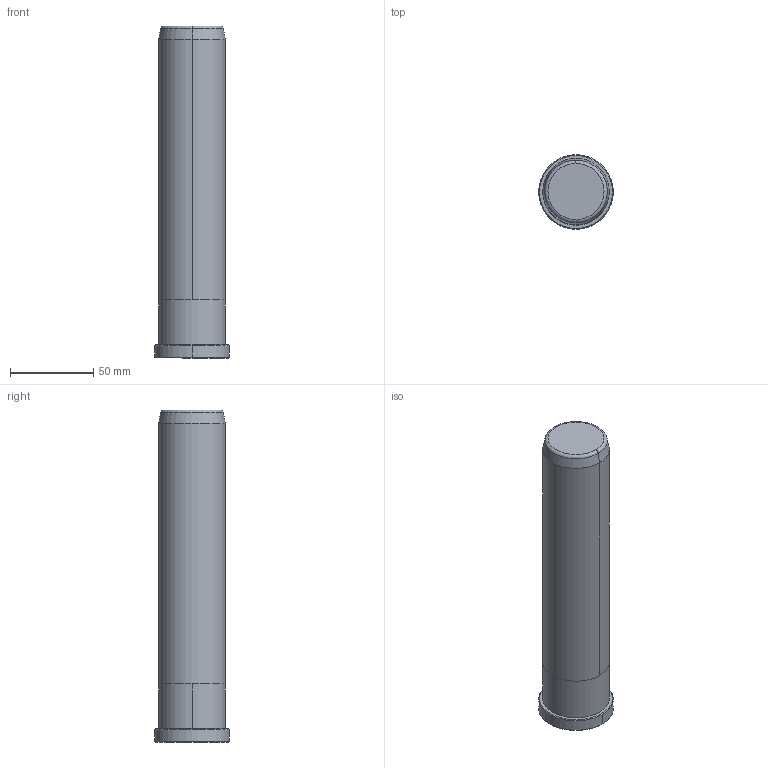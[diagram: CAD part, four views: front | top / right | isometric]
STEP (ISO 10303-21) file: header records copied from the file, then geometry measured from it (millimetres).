
FILE_DESCRIPTION((''),'2;1');
FILE_NAME('B80840200','2018-01-06T',('MANU'),(''),'PRO/ENGINEER BY PARAMETRIC TECHNOLOGY CORPORATION, 2012130','PRO/ENGINEER BY PARAMETRIC TECHNOLOGY CORPORATION, 2012130','');
FILE_SCHEMA(('CONFIG_CONTROL_DESIGN'));
Length unit declared in the file: millimetre
Products named in the file (1): B80840200
Bounding box: 45 x 45 x 200 mm (x, y, z)
Volume: 253239.4 mm3; surface area: 28098.8 mm2
Topology: 1 solids, 1 shells, 18 faces, 34 edges, 20 vertices
Faces by surface type: cone 6, cylinder 6, plane 4, torus 2
Entity records: 494 total; most frequent: DIRECTION 92, CARTESIAN_POINT 72, ORIENTED_EDGE 68, AXIS2_PLACEMENT_3D 40, EDGE_CURVE 34, CIRCLE 22, VERTEX_POINT 20, EDGE_LOOP 20
